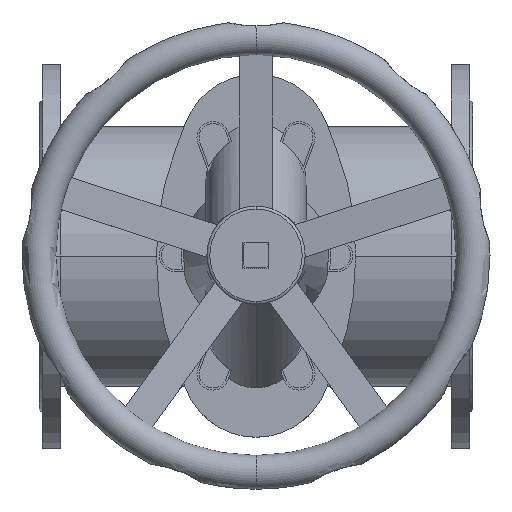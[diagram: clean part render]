
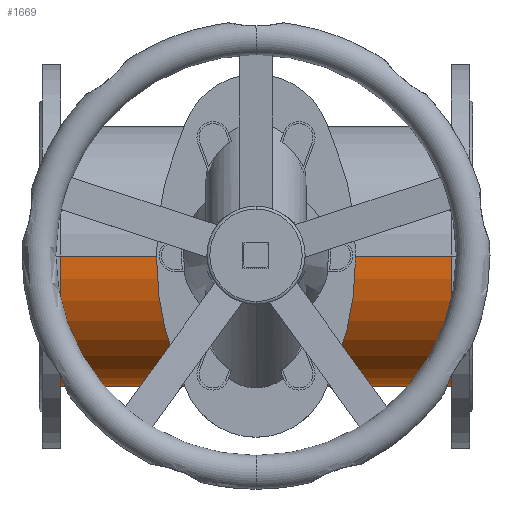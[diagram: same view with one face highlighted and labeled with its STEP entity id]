
A CAD part, top view. The second image highlights one B-rep face of the part: STEP entity #1669.
In plain terms, the highlighted cylindrical face has radius 135 mm (diameter 270 mm), a partial arc.
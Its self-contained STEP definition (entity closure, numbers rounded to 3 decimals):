
#1669=ADVANCED_FACE('',(#3375),#3376,.T.);
#3375=FACE_OUTER_BOUND('',#5553,.T.);
#3376=CYLINDRICAL_SURFACE('',#5554,135.0);
#5553=EDGE_LOOP('',(#8771,#8772,#8773,#8774));
#5554=AXIS2_PLACEMENT_3D('',#8775,#8776,#8777);
#8771=ORIENTED_EDGE('',*,*,#11952,.F.);
#8772=ORIENTED_EDGE('',*,*,#12203,.T.);
#8773=ORIENTED_EDGE('',*,*,#11954,.F.);
#8774=ORIENTED_EDGE('',*,*,#12869,.T.);
#8775=CARTESIAN_POINT('',(47.0,0.0,0.));
#8776=DIRECTION('',(1.0,0.0,0.));
#8777=DIRECTION('',(0.,0.0,1.0));
#11952=EDGE_CURVE('',#14095,#14096,#14097,.T.);
#11954=EDGE_CURVE('',#14098,#14100,#14101,.T.);
#12203=EDGE_CURVE('',#14095,#14100,#14529,.T.);
#12869=EDGE_CURVE('',#14098,#14096,#15553,.T.);
#14095=VERTEX_POINT('',#17091);
#14096=VERTEX_POINT('',#17092);
#14097=LINE('',#17093,#17094);
#14098=VERTEX_POINT('',#17095);
#14100=VERTEX_POINT('',#17097);
#14101=LINE('',#17098,#17099);
#14529=CIRCLE('',#17669,135.0);
#15553=CIRCLE('',#19103,135.0);
#17091=CARTESIAN_POINT('',(47.0,0.0,135.0));
#17092=CARTESIAN_POINT('',(453.0,0.0,135.0));
#17093=CARTESIAN_POINT('',(47.0,0.,135.0));
#17094=VECTOR('',#20857,1.0);
#17095=CARTESIAN_POINT('',(453.0,0.,-135.0));
#17097=CARTESIAN_POINT('',(47.0,0.,-135.0));
#17098=CARTESIAN_POINT('',(47.0,0.,-135.0));
#17099=VECTOR('',#20861,1.0);
#17669=AXIS2_PLACEMENT_3D('',#21285,#21286,#21287);
#19103=AXIS2_PLACEMENT_3D('',#22171,#22172,#22173);
#20857=DIRECTION('',(1.0,0.0,0.));
#20861=DIRECTION('',(-1.0,-0.0,0.));
#21285=CARTESIAN_POINT('',(47.0,0.0,0.));
#21286=DIRECTION('',(1.0,0.0,0.));
#21287=DIRECTION('',(0.,0.0,1.0));
#22171=CARTESIAN_POINT('',(453.0,0.0,0.));
#22172=DIRECTION('',(-1.0,0.0,0.));
#22173=DIRECTION('',(0.,0.0,1.0));
